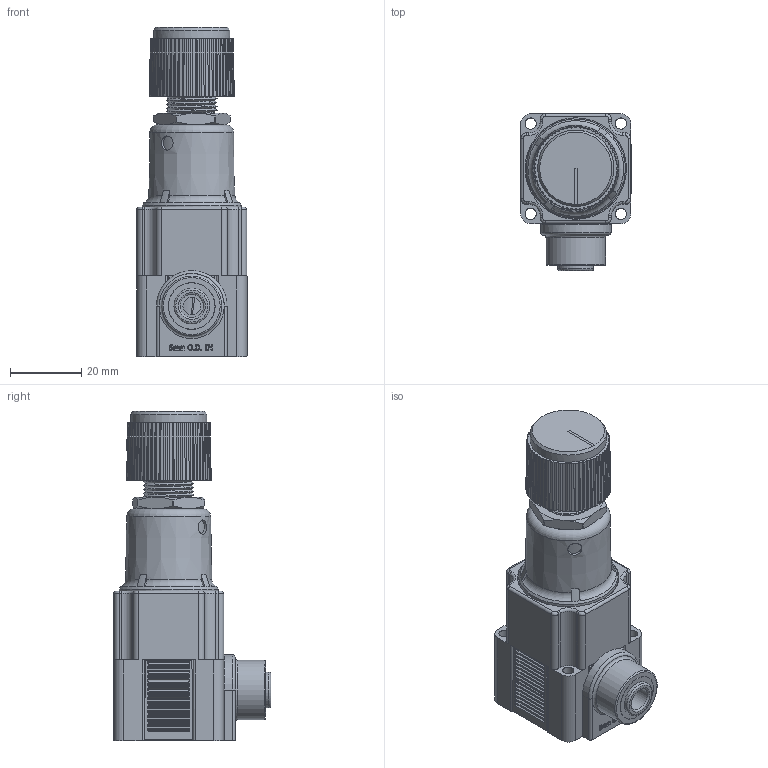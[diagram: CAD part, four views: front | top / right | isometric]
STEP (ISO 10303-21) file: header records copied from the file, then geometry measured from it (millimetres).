
FILE_DESCRIPTION(/* description */ (''),/* implementation_level */ '2;1');
FILE_NAME(/* name */ 'K:\Normteile INVENTOR\Air-Logic\Regulators\NR4000\NR 4___ 8 Push-In Fittings for 6 mm O.D. Tube In.igs.ipt.stp',/* time_stamp */ '2020-05-27T10:51:15+02:00',/* author */ ('Paul'),/* organization */ (''),/* preprocessor_version */ 'ST-DEVELOPER v18',/* originating_system */ 'Autodesk Inventor 2020',/* authorisation */ '');
FILE_SCHEMA (('AUTOMOTIVE_DESIGN { 1 0 10303 214 3 1 1 }'));
Length unit declared in the file: inch
Products named in the file (1): NR 4___ 8 Push-In Fittings for 6 mm O.D. Tube In.igs
Bounding box: 31.06 x 44.31 x 92.65 mm (x, y, z)
Volume: 57633.7 mm3; surface area: 20304.8 mm2
Topology: 1 solids, 1 shells, 1043 faces, 2696 edges, 1729 vertices
Faces by surface type: plane 514, cylinder 333, bspline 88, cone 82, torus 26
Full cylindrical faces by diameter (mm): 3.175 x4, 3.988 x1, 4.039 x1, 4.064 x1, 4.953 x1, 6.553 x1, 9.169 x1, 9.398 x1, 10.033 x1, 12.903 x1, 13.081 x1, 13.157 x1, 14.288 x2, 16.764 x1, 19.406 x1, 21.476 x1, 26.264 x1, 27.94 x1, 28.575 x1
Entity records: 40997 total; most frequent: CARTESIAN_POINT 14305, ORIENTED_EDGE 5392, DIRECTION 5353, EDGE_CURVE 2696, AXIS2_PLACEMENT_3D 1996, VERTEX_POINT 1729, LINE 1361, VECTOR 1361
